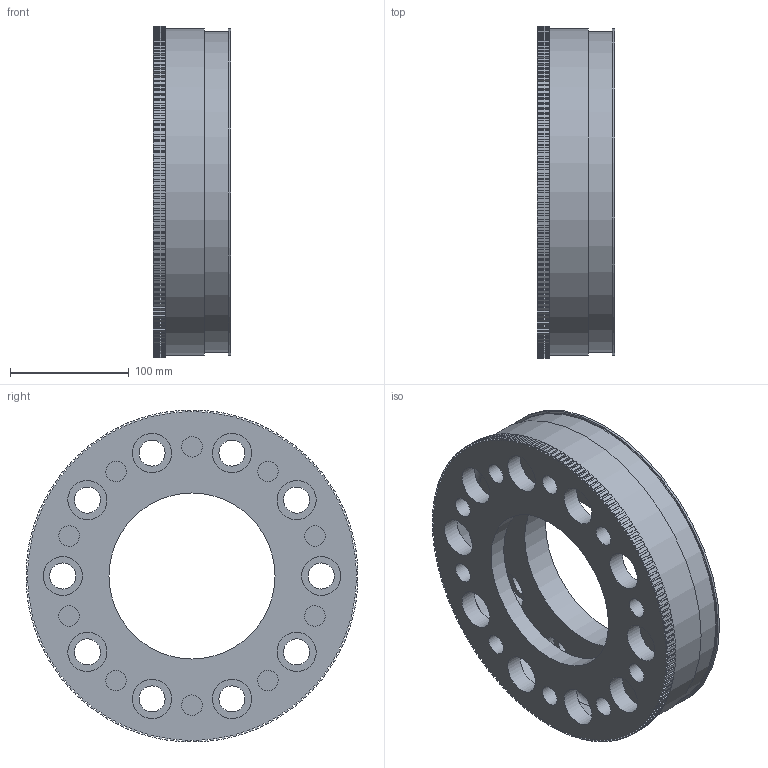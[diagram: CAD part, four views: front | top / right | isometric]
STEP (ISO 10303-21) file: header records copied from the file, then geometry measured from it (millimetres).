
FILE_DESCRIPTION(/* description */ (''),/* implementation_level */ '2;1');
FILE_NAME(/* name */ 'F:\Sensorik\Standard_Messflansche\07_15000_20000_Nm\RF-275x65_LK218_10xM20_140H7\CAD-Daten\RF-275_Freigabemodell.stp',/* time_stamp */ '2014-05-27T09:23:11+02:00',/* author */ ('Lander'),/* organization */ (''),/* preprocessor_version */ 'ST-DEVELOPER v15.2',/* originating_system */ 'Autodesk Inventor 2014',/* authorisation */ '');
FILE_SCHEMA (('AUTOMOTIVE_DESIGN { 1 0 10303 214 3 1 1 }'));
Length unit declared in the file: millimetre
Products named in the file (1): RF-275_Freigabemodell
Bounding box: 65 x 279.99 x 279.99 mm (x, y, z)
Volume: 1516965.5 mm3; surface area: 289072.9 mm2
Topology: 1 solids, 1 shells, 787 faces, 2338 edges, 1566 vertices
Faces by surface type: plane 555, cylinder 226, torus 4, cone 2
Full cylindrical faces by diameter (mm): 17.294 x10, 22 x10, 33 x20, 140 x2, 265 x1, 270 x1, 275 x2
Entity records: 25902 total; most frequent: CARTESIAN_POINT 4580, ORIENTED_EDGE 4512, DIRECTION 4288, EDGE_CURVE 2256, LINE 1800, VECTOR 1800, VERTEX_POINT 1536, AXIS2_PLACEMENT_3D 1244
